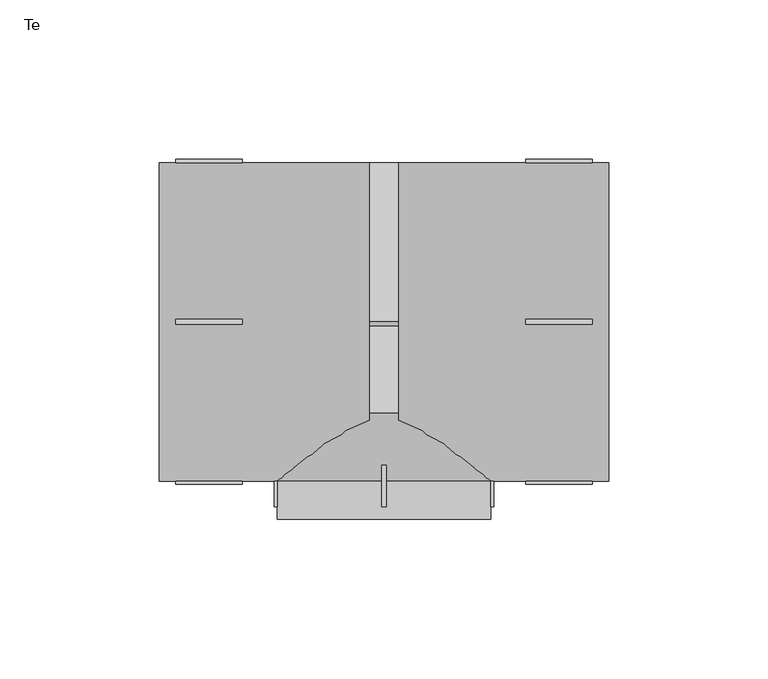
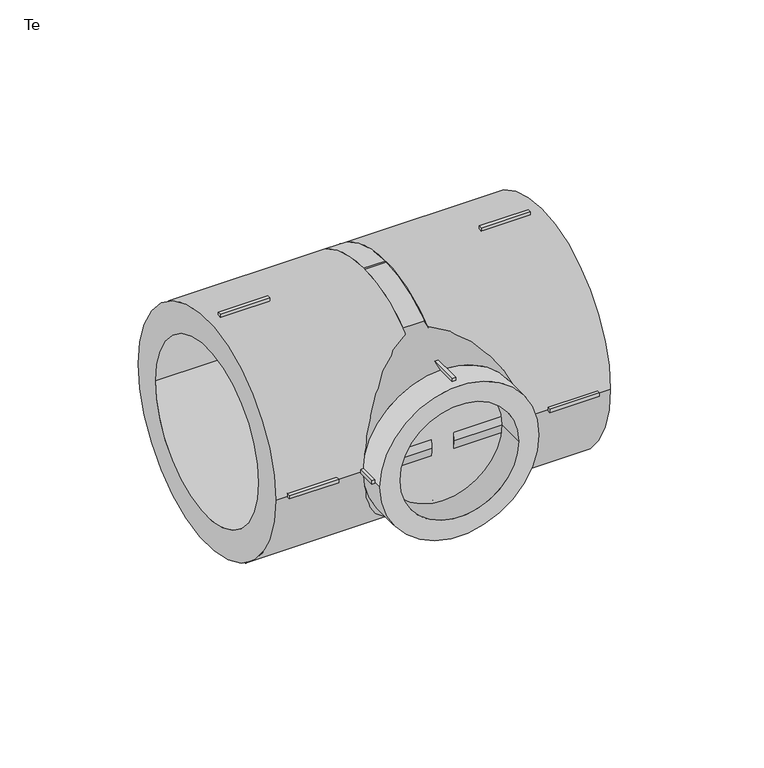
"""IFC4 building model written with IfcOpenShell, lengths in millimetres: pipe fitting geometry, EGB_VASEN_ PPR_Te WXR300_Te reducida WXR310 : Te."""

from ifc_helpers import new_model, si_unit, point, frame, origin, origin_2d, place, context, project, spatial, polyline, circle_curve, trimmed, segment, composite_curve, outline, extrude, source, transform, mapped, element, save
from ifc_brep_helpers import plane_surface, revolved_surface, advanced_brep


def te_94e248bf(model_context):
    return source(origin(), model_context, "Body", "SolidModel", [
        extrude(outline(polyline([(-0.75, -42.0), (0.75, -42.0), (0.75, -58.0), (-0.75, -58.0), (-0.75, -42.0)])), frame((0.0, 0.0, 32.5), z_axis=(0.0, 0.0, 1.0), x_axis=(1.0, 0.0, 0.0)), (0.0, 0.0, 1.0), 2.0),
        extrude(outline(polyline([(-0.75, -42.0), (0.75, -42.0), (0.75, -58.0), (-0.75, -58.0), (-0.75, -42.0)])), frame((0.0, 0.0, -34.5), z_axis=(0.0, 0.0, 1.0), x_axis=(1.0, 0.0, 0.0)), (0.0, 0.0, 1.0), 2.0),
        extrude(outline(polyline([(32.5, -42.0), (34.5, -42.0), (34.5, -58.0), (32.5, -58.0), (32.5, -42.0)])), frame((0.0, 0.0, -0.75), z_axis=(0.0, 0.0, 1.0), x_axis=(1.0, 0.0, 0.0)), (0.0, 0.0, 1.0), 1.5),
        extrude(outline(polyline([(-34.5, -42.0), (-32.5, -42.0), (-32.5, -58.0), (-34.5, -58.0), (-34.5, -42.0)])), frame((0.0, 0.0, -0.75), z_axis=(0.0, 0.0, 1.0), x_axis=(1.0, 0.0, 0.0)), (0.0, 0.0, 1.0), 1.5),
        extrude(outline(polyline([(44.5, -0.75), (44.5, 0.75), (65.3, 0.75), (65.3, -0.75), (44.5, -0.75)])), frame((0.0, 0.0, 49.0), z_axis=(0.0, 0.0, 1.0), x_axis=(1.0, 0.0, 0.0)), (0.0, 0.0, 1.0), 2.0),
        extrude(outline(polyline([(44.5, -0.75), (44.5, 0.75), (65.3, 0.75), (65.3, -0.75), (44.5, -0.75)])), frame((0.0, 0.0, -51.0), z_axis=(0.0, 0.0, 1.0), x_axis=(1.0, 0.0, 0.0)), (0.0, 0.0, 1.0), 2.0),
        extrude(outline(polyline([(44.5, 49.0), (44.5, 51.0), (65.3, 51.0), (65.3, 49.0), (44.5, 49.0)])), frame((0.0, 0.0, -0.75), z_axis=(0.0, 0.0, 1.0), x_axis=(1.0, 0.0, 0.0)), (0.0, 0.0, 1.0), 1.5),
        extrude(outline(polyline([(44.5, -51.0), (44.5, -49.0), (65.3, -49.0), (65.3, -51.0), (44.5, -51.0)])), frame((0.0, 0.0, -0.75), z_axis=(0.0, 0.0, 1.0), x_axis=(1.0, 0.0, 0.0)), (0.0, 0.0, 1.0), 1.5),
        extrude(outline(polyline([(-44.5, 0.75), (-44.5, -0.75), (-65.3, -0.75), (-65.3, 0.75), (-44.5, 0.75)])), frame((0.0, 0.0, 49.0), z_axis=(0.0, 0.0, 1.0), x_axis=(1.0, 0.0, 0.0)), (0.0, 0.0, 1.0), 2.0),
        extrude(outline(polyline([(-44.5, 0.75), (-44.5, -0.75), (-65.3, -0.75), (-65.3, 0.75), (-44.5, 0.75)])), frame((0.0, 0.0, -51.0), z_axis=(0.0, 0.0, 1.0), x_axis=(1.0, 0.0, 0.0)), (0.0, 0.0, 1.0), 2.0),
        extrude(outline(polyline([(-44.5, 51.0), (-44.5, 49.0), (-65.3, 49.0), (-65.3, 51.0), (-44.5, 51.0)])), frame((0.0, 0.0, -0.75), z_axis=(0.0, 0.0, 1.0), x_axis=(1.0, 0.0, 0.0)), (0.0, 0.0, 1.0), 1.5),
        extrude(outline(polyline([(-44.5, -49.0), (-44.5, -51.0), (-65.3, -51.0), (-65.3, -49.0), (-44.5, -49.0)])), frame((0.0, 0.0, -0.75), z_axis=(0.0, 0.0, 1.0), x_axis=(1.0, 0.0, 0.0)), (0.0, 0.0, 1.0), 1.5),
        extrude(outline(composite_curve([segment(trimmed(circle_curve(origin_2d(), 33.5), [point((0.0, 33.5))], [point((0.0, -33.5))], False, "CARTESIAN"), True, "CONTINUOUS"), segment(trimmed(circle_curve(origin_2d(), 33.5), [point((0.0, -33.5))], [point((0.0, 33.5))], False, "CARTESIAN"), True, "CONTINUOUS")], self_intersect=False), holes=[composite_curve([segment(trimmed(circle_curve(origin_2d(), 25.0), [point((0.0, 25.0))], [point((0.0, -25.0))], True, "CARTESIAN"), True, "CONTINUOUS"), segment(trimmed(circle_curve(origin_2d(), 25.0), [point((0.0, -25.0))], [point((0.0, 25.0))], True, "CARTESIAN"), True, "CONTINUOUS")], self_intersect=False)]), frame((0.0, -62.0, 0.0), z_axis=(0.0, 1.0, 0.0), x_axis=(0.0, 0.0, 1.0)), (0.0, 0.0, 1.0), 12.0),
        extrude(outline(composite_curve([segment(trimmed(circle_curve(origin_2d(), 50.0), [point((-50.0, 0.0))], [point((50.0, 0.0))], False, "CARTESIAN"), True, "CONTINUOUS"), segment(trimmed(circle_curve(origin_2d(), 50.0), [point((50.0, 0.0))], [point((-50.0, 0.0))], False, "CARTESIAN"), True, "CONTINUOUS")], self_intersect=False), holes=[composite_curve([segment(trimmed(circle_curve(origin_2d(), 37.5), [point((-37.5, 0.0))], [point((37.5, 0.0))], True, "CARTESIAN"), True, "CONTINUOUS"), segment(trimmed(circle_curve(origin_2d(), 37.5), [point((37.5, 0.0))], [point((-37.5, 0.0))], True, "CARTESIAN"), True, "CONTINUOUS")], self_intersect=False)]), frame((4.64, 0.0, 0.0), z_axis=(1.0, 0.0, 0.0), x_axis=(0.0, 1.0, 0.0)), (0.0, 0.0, 1.0), 65.86),
        extrude(outline(composite_curve([segment(trimmed(circle_curve(origin_2d(), 50.0), [point((-50.0, 0.0))], [point((50.0, 0.0))], False, "CARTESIAN"), True, "CONTINUOUS"), segment(trimmed(circle_curve(origin_2d(), 50.0), [point((50.0, 0.0))], [point((-50.0, 0.0))], False, "CARTESIAN"), True, "CONTINUOUS")], self_intersect=False), holes=[composite_curve([segment(trimmed(circle_curve(origin_2d(), 37.5), [point((-37.5, 0.0))], [point((37.5, 0.0))], True, "CARTESIAN"), True, "CONTINUOUS"), segment(trimmed(circle_curve(origin_2d(), 37.5), [point((37.5, 0.0))], [point((-37.5, 0.0))], True, "CARTESIAN"), True, "CONTINUOUS")], self_intersect=False)]), frame((-70.5, 0.0, 0.0), z_axis=(1.0, 0.0, 0.0), x_axis=(0.0, 1.0, 0.0)), (0.0, 0.0, 1.0), 65.86),
        advanced_brep(
        [(50.0, 0.0, 0.0), (-50.0, 0.0, 0.0), (33.5, -50.0, 0.0), (-33.5, -50.0, 0.0)],
        [
            (0, 1, circle_curve(frame((0.0, 0.0, 0.0), z_axis=(0.0, 1.0, 0.0), x_axis=(1.0, 0.0, 0.0)), 50.0)),
            (1, 0, circle_curve(frame((0.0, 0.0, 0.0), z_axis=(0.0, 1.0, 0.0), x_axis=(-1.0, 0.0, 0.0)), 50.0)),
            (2, 3, circle_curve(frame((0.0, -50.0, 0.0), z_axis=(0.0, -1.0, 0.0), x_axis=(-1.0, 0.0, 0.0)), 33.5)),
            (3, 2, circle_curve(frame((0.0, -50.0, 0.0), z_axis=(0.0, -1.0, 0.0), x_axis=(1.0, 0.0, 0.0)), 33.5)),
            (3, 1),
            (0, 2),
        ],
        [
            plane_surface(frame((0.0, 0.0, 0.0), z_axis=(0.0, 1.0, 0.0), x_axis=(0.0, 0.0, -1.0))),
            plane_surface(frame((0.0, -50.0, 0.0), z_axis=(0.0, -1.0, 0.0), x_axis=(0.0, 0.0, -1.0))),
            revolved_surface(polyline([(-33.49999999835, -50.0, 0.0), (-50.0, 0.0, 0.0)]), (0.0, -151.5151515, 0.0), (0.0, 1.0, 0.0)),
            revolved_surface(polyline([(33.49999999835, -50.0, 0.0), (50.0, 0.0, 0.0)]), (0.0, -151.5151515, 0.0), (0.0, 1.0, 0.0)),
        ],
        [
            (0, [[1, 2]]),
            (1, [[3, 4]]),
            (2, [[-4, 5, -1, 6]]),
            (3, [[-3, -6, -2, -5]]),
        ],
    ),
        extrude(outline(composite_curve([segment(trimmed(circle_curve(origin_2d(), 50.0), [point((-50.0, 0.0))], [point((50.0, 0.0))], False, "CARTESIAN"), True, "CONTINUOUS"), segment(trimmed(circle_curve(origin_2d(), 50.0), [point((50.0, 0.0))], [point((-50.0, 0.0))], False, "CARTESIAN"), True, "CONTINUOUS")], self_intersect=False)), frame((-4.64, 0.0, 0.0), z_axis=(1.0, 0.0, 0.0), x_axis=(0.0, 1.0, 0.0)), (0.0, 0.0, 1.0), 9.28),
    ])


if __name__ == "__main__":
    model = new_model("IFC4")
    model_context = context("Model", 3, world=origin())
    ifc_project = project(units=[si_unit("LENGTHUNIT", "METRE", prefix="MILLI")], contexts=[model_context])
    site = spatial("IfcSite", under=ifc_project)
    building = spatial("IfcBuilding", under=site)
    placement = place(None, origin())
    te_shape = te_94e248bf(model_context)
    element("IfcPipeFitting", 1, ObjectType="EGB_VASEN_ PPR_Te WXR300_Te reducida WXR310 : Te", at=placement, inside=building, context=model_context, shape_type="MappedRepresentation", body=[
        mapped(te_shape, transform((0.0, 0.0, 0.0), x_axis=(1.0, 0.0, 0.0), y_axis=(0.0, 1.0, 0.0), z_axis=(0.0, 0.0, 1.0))),
    ])
    save(model, "model.ifc")
